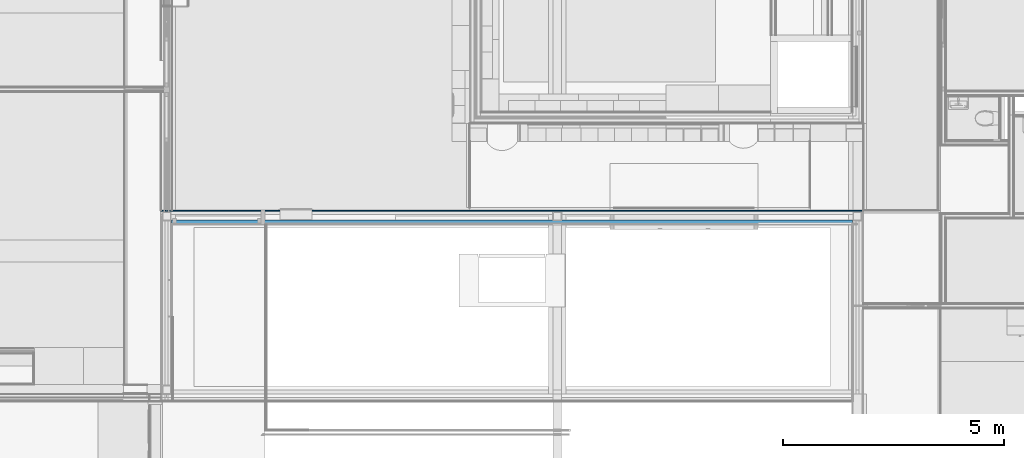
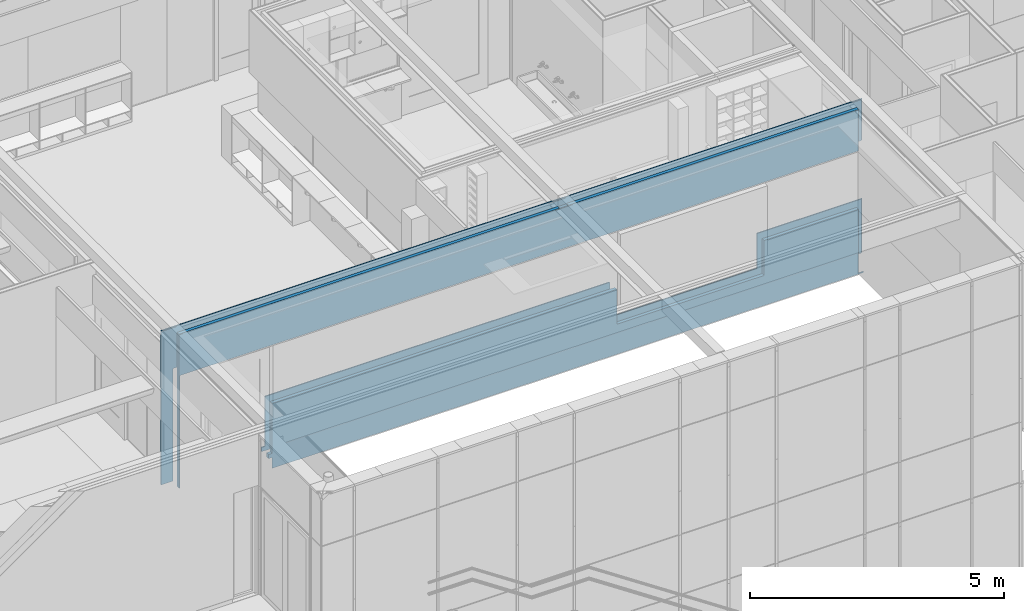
# One storey, part 69 of 137: 3 building element parts, 4 openings, 1 element without a shape of its own.
"""IFC2X3 building model written with IfcOpenShell, lengths in millimetres."""

from ifc_helpers import new_model, entity, si_unit, converted_unit, derived_unit, money_unit, direction, frame, origin_with_axes, place, context, subcontext, project, spatial, faceted_brep, material, type_object, element, aggregate, save


model = new_model("IFC2X3")

# Units and contexts
model_context = context("Model", 3, precision=0.01, world=origin_with_axes(), true_north=direction((0.0, 1.0)))
body_context = subcontext(model_context, "Body", "Model", "MODEL_VIEW")
ifc_project = project(units=[si_unit("LENGTHUNIT", "METRE", prefix="MILLI"), si_unit("AREAUNIT", "SQUARE_METRE"), si_unit("VOLUMEUNIT", "CUBIC_METRE"), converted_unit("PLANEANGLEUNIT", "DEGREE", entity("IfcPlaneAngleMeasure", 0.0174532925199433), si_unit("PLANEANGLEUNIT", "RADIAN"), dimensions=[0, 0, 0, 0, 0, 0, 0]), money_unit("EUR"), converted_unit("TIMEUNIT", "Year", entity("IfcTimeMeasure", 31556926.0), si_unit("TIMEUNIT", "SECOND"), dimensions=[0, 0, 1, 0, 0, 0, 0]), si_unit("MASSUNIT", "GRAM", prefix="KILO"), si_unit("THERMODYNAMICTEMPERATUREUNIT", "DEGREE_CELSIUS"), si_unit("LUMINOUSINTENSITYUNIT", "LUMEN"), si_unit("ENERGYUNIT", "JOULE", prefix="MEGA"), derived_unit("THERMALCONDUCTANCEUNIT", [(si_unit("POWERUNIT", "WATT"), 1), (si_unit("LENGTHUNIT", "METRE"), -1), (si_unit("THERMODYNAMICTEMPERATUREUNIT", "KELVIN"), -1)]), derived_unit("SPECIFICHEATCAPACITYUNIT", [(si_unit("ENERGYUNIT", "JOULE"), 1), (si_unit("MASSUNIT", "GRAM", prefix="KILO"), -1), (si_unit("THERMODYNAMICTEMPERATUREUNIT", "KELVIN"), -1)]), derived_unit("MASSDENSITYUNIT", [(si_unit("MASSUNIT", "GRAM", prefix="KILO"), 1), (si_unit("VOLUMEUNIT", "CUBIC_METRE"), -1)])], contexts=[model_context])

# Site, building, storey
site_placement = place(None, origin_with_axes())
site = spatial("IfcSite", under=ifc_project, at=site_placement, Name="Site", CompositionType="ELEMENT")
building_placement = place(site_placement, origin_with_axes())
building = spatial("IfcBuilding", under=site, at=building_placement, Name="Naam gebouw", CompositionType="ELEMENT")
storey_placement = place(building_placement, frame((0.0, 0.0, 3960.0), z_axis=(0.0, 0.0, 1.0), x_axis=(1.0, 0.0, 0.0)))
storey = spatial("IfcBuildingStorey", under=building, at=storey_placement, Name="1e verdieping", CompositionType="ELEMENT", Elevation=3960.0)

# Proxy, openings, building element parts
building_element_proxy_type = type_object("IfcBuildingElementProxyType", Name="22 Metal stud 325 325", PredefinedType="NOTDEFINED")
proxy_placement = place(storey_placement, frame((24499.99903999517, 10620.00011055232, -360.0000000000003), z_axis=(0.0, 0.0, 1.0), x_axis=(-1.0, 0.0, 0.0)))
proxy = element("IfcBuildingElementProxy", 1, at=proxy_placement, inside=storey, type_object=building_element_proxy_type, Name="_Wand-x")
opening_1_placement = place(proxy_placement, frame((9512.476531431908, 0.0, 1560.0), z_axis=(0.0, 0.0, 1.0), x_axis=(1.0, 0.0, 0.0)))
element("IfcOpeningElement", 2, at=opening_1_placement, cuts=proxy, Name="_A.02", context=body_context, shape_type="Brep", body=[
    faceted_brep([(-3912.476916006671, -326.0000000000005, 1400.0), (-3912.476916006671, -326.0000000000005, 0.0), (3912.476916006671, -326.0000000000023, 0.0), (3912.476916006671, -326.0000000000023, 1400.0), (-3912.476916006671, 1.000000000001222, 1400.0), (-3912.476916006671, 1.000000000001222, 0.0), (3912.476916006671, 0.9999999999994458, 0.0), (3912.476916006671, 0.9999999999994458, 1400.0)], [[[0, 1, 2, 3]], [[4, 5, 1, 0]], [[5, 6, 2, 1]], [[6, 7, 3, 2]], [[7, 4, 0, 3]], [[6, 5, 4, 7]]]),
])
opening_2_placement = place(proxy_placement, frame((1194.999807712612, 0.0, 1560.0), z_axis=(0.0, 0.0, 1.0), x_axis=(1.0, 0.0, 0.0)))
element("IfcOpeningElement", 3, at=opening_2_placement, cuts=proxy, Name="_A.01a", context=body_context, shape_type="Brep", body=[
    faceted_brep([(-1329.999807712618, -325.9999999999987, 1400.0), (-1329.999807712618, -325.9999999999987, 0.0), (1059.999807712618, -325.9999999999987, 0.0), (1059.999807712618, -325.9999999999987, 1400.0), (-1329.999807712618, -325.0000000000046, 0.0), (-1329.999807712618, -325.0000000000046, 1400.0), (-1059.169038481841, 0.9999999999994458, 0.0), (1059.999807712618, 0.9999999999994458, 0.0), (1059.999807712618, 0.9999999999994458, 1400.0), (-1059.169038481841, 0.9999999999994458, 1400.0)], [[[0, 1, 2, 3]], [[4, 1, 0, 5]], [[6, 7, 2, 1, 4]], [[7, 8, 3, 2]], [[8, 9, 5, 0, 3]], [[4, 5, 9, 6]], [[7, 6, 9, 8]]]),
])
opening_3_placement = place(proxy_placement, frame((3927.499615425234, 0.0, 720.0000000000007), z_axis=(0.0, 0.0, 1.0), x_axis=(1.0, 0.0, 0.0)))
element("IfcOpeningElement", 4, at=opening_3_placement, cuts=proxy, Name="_A.04", context=body_context, shape_type="Brep", body=[
    faceted_brep([(-1672.500000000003, -325.9999999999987, 2240.0), (-1672.500000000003, -325.9999999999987, 0.0), (1672.500000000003, -325.9999999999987, 0.0), (1672.500000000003, -325.9999999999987, 2240.0), (-1672.500000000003, 0.9999999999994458, 2240.0), (-1672.500000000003, 0.9999999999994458, 0.0), (1672.500000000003, 0.9999999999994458, 0.0), (1672.500000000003, 0.9999999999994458, 2240.0)], [[[0, 1, 2, 3]], [[4, 5, 1, 0]], [[5, 6, 2, 1]], [[6, 7, 3, 2]], [[7, 4, 0, 3]], [[6, 5, 4, 7]]]),
])
opening_4_placement = place(proxy_placement, frame((14509.95344743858, 0.0, 360.0000000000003), z_axis=(0.0, 0.0, 1.0), x_axis=(1.0, 0.0, 0.0)))
element("IfcOpeningElement", 5, at=opening_4_placement, cuts=proxy, Name="_03.05", context=body_context, shape_type="Brep", body=[
    faceted_brep([(-1005.000000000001, -326.0000000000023, 2600.0), (-1005.000000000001, -326.0000000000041, -100.0000000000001), (1005.000000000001, -326.0000000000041, -100.0000000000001), (1005.000000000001, -326.0000000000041, 2600.0), (-1005.000000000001, 1.000000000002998, 2600.0), (-1005.000000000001, 1.000000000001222, -100.0000000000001), (1005.000000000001, 1.000000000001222, -100.0000000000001), (1005.000000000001, 1.000000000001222, 2600.0)], [[[0, 1, 2, 3]], [[4, 5, 1, 0]], [[5, 6, 2, 1]], [[6, 7, 3, 2]], [[7, 4, 0, 3]], [[6, 5, 4, 7]]]),
])
ifc_material_1 = material(Name="ALG - LICHTE SCHEIDINGSWAND")
building_element_part_1_placement = place(proxy_placement, origin_with_axes())
building_element_part_1 = element("IfcBuildingElementPart", 6, at=building_element_part_1_placement, material=ifc_material_1, Name="ALG - LICHTE SCHEIDINGSWAND", context=body_context, shape_type="Brep", body=[
    faceted_brep([(13504.95344743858, -100.0000022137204, 360.0000000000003), (13424.95344743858, -100.0000021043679, 360.0000000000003), (13424.95344743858, -100.0000021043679, 1560.0), (6899.99961542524, -100.0000021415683, 1560.0), (6899.99961542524, -100.0000021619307, 260.0000000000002), (13504.95344743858, -100.0000022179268, 260.0000000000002), (13504.95344743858, -25.00000000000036, 360.0000000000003), (13424.95344743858, -25.00000000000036, 360.0000000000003), (13424.95344743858, -25.00000000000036, 1560.0), (5599.999615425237, -25.00000000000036, 1560.0), (5599.999615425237, -100.0000021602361, 1560.0), (6699.999615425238, -100.0000021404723, 1560.0), (6699.999615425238, -90.00000000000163, 1560.0), (6899.99961542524, -90.00000000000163, 1560.0), (6899.99961542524, -90.00000000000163, 260.0000000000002), (13424.95344743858, -35.99999999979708, 259.9999999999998), (13424.95344743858, -25.00000000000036, 259.9999999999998), (13504.95344743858, -25.00000000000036, 260.0000000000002), (6699.999615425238, -90.00000000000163, 260.0000000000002), (6699.999615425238, -100.0000021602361, 260.0000000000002), (109.9999999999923, -100.0000021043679, 260.0000022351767), (109.9999999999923, -35.99999999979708, 259.9999999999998), (13424.95344743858, -25.00000000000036, 0.0), (100.9999999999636, -25.00000000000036, 0.0), (100.9999999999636, -25.00000000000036, 30.00000000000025), (109.9999999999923, -25.00000000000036, 30.00000000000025), (109.9999999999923, -25.00000000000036, 1560.0), (114.2307692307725, -25.00000000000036, 1560.0), (2254.99961542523, -25.00000000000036, 1560.0), (2254.99961542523, -25.00000000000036, 720.0000000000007), (5599.999615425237, -25.00000000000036, 720.0000000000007), (5599.999615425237, -100.0000021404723, 720.0000000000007), (2254.99961542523, -100.0000021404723, 720.0000000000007), (2254.99961542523, -100.0000021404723, 1560.0), (109.9999999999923, -100.0000013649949, 1560.0), (13424.95344743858, -35.99999999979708, 0.0), (109.9999999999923, -30.09259259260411, 1560.0), (109.9999999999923, -35.99999999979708, 30.00000000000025), (100.9999999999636, -35.99999999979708, 30.00000000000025), (100.9999999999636, -35.99999999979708, 0.0)], [[[0, 1, 2, 3, 4, 5]], [[1, 0, 6, 7]], [[8, 2, 1, 7]], [[2, 8, 9, 10, 11, 12, 13, 3]], [[3, 13, 14, 4]], [[15, 16, 17, 5, 4, 14, 18, 19, 20, 21]], [[6, 0, 5, 17]], [[7, 6, 17, 16, 22, 23, 24, 25, 26, 27, 28, 29, 30, 9, 8]], [[30, 31, 10, 9]], [[32, 33, 34, 20, 19, 11, 10, 31]], [[12, 11, 19, 18]], [[13, 12, 18, 14]], [[16, 15, 35, 22]], [[20, 34, 36, 26, 25, 37, 21]], [[38, 39, 35, 15, 21, 37]], [[39, 23, 22, 35]], [[39, 38, 24, 23]], [[24, 38, 37, 25]], [[26, 36, 27]], [[27, 36, 34, 33, 28]], [[29, 28, 33, 32]], [[29, 32, 31, 30]]]),
    faceted_brep([(13424.95344743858, -25.00000000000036, 2960.000000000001), (13424.95344743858, -100.0000021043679, 2960.000000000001), (6899.99961542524, -100.0000021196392, 2960.000000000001), (6899.99961542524, -90.00000000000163, 2960.000000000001), (6699.999615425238, -90.00000000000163, 2960.000000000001), (6699.999615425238, -100.0000021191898, 2960.000000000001), (2254.99961542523, -100.0000021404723, 2960.000000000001), (2254.99961542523, -25.00000000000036, 2960.000000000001), (13504.95344743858, -100.0000021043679, 2960.000000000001), (13504.95344743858, -25.00000000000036, 2960.000000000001), (15514.95344743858, -100.0000021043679, 2960.000000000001), (15514.95344743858, -100.0000022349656, 260.0000000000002), (15539.99664850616, -100.0000022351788, 260.0000022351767), (15539.99664850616, -100.0000000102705, 3943.000002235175), (15449.99903405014, -100.0000021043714, 3943.000002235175), (15449.99903405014, -100.0000021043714, 3955.000002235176), (15539.99664850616, -100.000000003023, 3955.000002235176), (15539.99664850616, -100.0000000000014, 3960.000000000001), (6900.999615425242, -99.99999999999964, 3960.000000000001), (6900.999615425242, -100.0000021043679, 3955.000029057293), (6999.999615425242, -100.0000021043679, 3955.000029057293), (6999.999615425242, -100.0000021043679, 3935.000029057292), (6899.99961542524, -100.0000021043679, 3935.000029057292), (6899.99961542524, -90.00000000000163, 3935.000029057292), (6999.999615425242, -90.00000000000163, 3935.000029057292), (6999.999615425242, -90.00000000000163, 3940.000029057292), (6599.999615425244, -90.00000000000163, 3940.000029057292), (6599.999615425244, -90.00000000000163, 3935.000029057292), (6699.999615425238, -90.00000000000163, 3935.000029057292), (6699.999615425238, -100.0000021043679, 3935.000029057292), (109.9999999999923, -100.0000000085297, 3945.000029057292), (109.9999999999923, -100.0000005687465, 2960.000000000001), (6599.999615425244, -100.0000021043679, 3935.000029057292), (6599.999615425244, -100.0000021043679, 3955.000029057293), (6698.999615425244, -100.0000021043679, 3955.000029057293), (6698.999615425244, -99.99999999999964, 3960.000000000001), (109.9999999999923, -99.99999999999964, 3960.000000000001), (109.9999999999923, -100.0000000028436, 3955.000029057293), (199.9999999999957, -100.0000021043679, 3955.000029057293), (199.9999999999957, -100.0000021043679, 3945.000029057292), (109.9999999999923, -30.09259259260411, 2960.000000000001), (114.2307692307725, -25.00000000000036, 2960.000000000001), (109.9999999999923, -25.00000000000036, 2960.000000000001), (109.9999999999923, -25.00000000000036, 3945.000029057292), (199.9999999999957, -25.00000000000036, 3945.000029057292), (199.9999999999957, -25.00000000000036, 3955.000029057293), (109.9999999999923, -25.00000000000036, 3955.000029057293), (109.9999999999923, -25.00000000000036, 3960.000000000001), (6698.999615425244, -25.00000000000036, 3960.000000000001), (6698.999615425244, -25.00000000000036, 3955.000029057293), (6599.999615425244, -25.00000000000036, 3955.000029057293), (6599.999615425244, -25.00000000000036, 3940.000029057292), (6999.999615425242, -25.00000000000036, 3940.000029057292), (6999.999615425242, -25.00000000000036, 3955.000029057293), (6900.999615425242, -25.00000000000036, 3955.000029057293), (6900.999615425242, -25.00000000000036, 3960.000000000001), (15539.99664850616, -25.00000000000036, 3960.000000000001), (15539.99664850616, -25.00000000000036, 3955.000002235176), (15449.99907863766, -25.00000000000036, 3955.000002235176), (15449.99907863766, -25.00000000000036, 3943.000002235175), (15539.99664850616, -25.00000000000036, 3943.000002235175), (15539.99664850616, -25.00000000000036, 259.9999999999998), (15514.95344743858, -25.00000000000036, 260.0000000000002), (15514.95344743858, -25.00000000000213, 2960.000000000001)], [[[0, 1, 2, 3, 4, 5, 6, 7]], [[8, 1, 0, 9]], [[1, 8, 10, 11, 12, 13, 14, 15, 16, 17, 18, 19, 20, 21, 22, 2]], [[3, 2, 22, 23]], [[4, 3, 23, 24, 25, 26, 27, 28]], [[5, 4, 28, 29]], [[30, 31, 6, 5, 29, 32, 33, 34, 35, 36, 37, 38, 39]], [[7, 6, 31, 40, 41]], [[9, 0, 7, 41, 42, 43, 44, 45, 46, 47, 48, 49, 50, 51, 52, 53, 54, 55, 56, 57, 58, 59, 60, 61, 62, 63]], [[8, 9, 63, 10]], [[63, 62, 11, 10]], [[61, 12, 11, 62]], [[60, 13, 12, 61]], [[14, 13, 60, 59]], [[15, 14, 59, 58]], [[16, 15, 58, 57]], [[16, 57, 56, 17]], [[55, 18, 17, 56]], [[55, 54, 19, 18]], [[54, 53, 20, 19]], [[53, 52, 25, 24, 21, 20]], [[22, 21, 24, 23]], [[26, 25, 52, 51]], [[26, 51, 50, 33, 32, 27]], [[28, 27, 32, 29]], [[42, 40, 31, 30, 43]], [[33, 50, 49, 34]], [[49, 48, 35, 34]], [[48, 47, 36, 35]], [[46, 37, 36, 47]], [[38, 37, 46, 45]], [[39, 38, 45, 44]], [[43, 30, 39, 44]], [[42, 41, 40]]]),
    faceted_brep([(6704.999615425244, -90.00000000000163, 3955.000029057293), (6704.999615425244, -90.00000000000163, 3959.999999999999), (6704.999615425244, -25.00000000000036, 3960.000000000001), (6704.999615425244, -25.00000000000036, 3955.000029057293), (6894.999615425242, -90.00000000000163, 3959.999999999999), (6894.999615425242, -90.00000000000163, 3955.000029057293), (6894.999615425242, -25.00000000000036, 3960.000000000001), (6894.999615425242, -25.00000000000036, 3955.000029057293)], [[[0, 1, 2, 3]], [[4, 1, 0, 5]], [[1, 4, 6, 2]], [[7, 3, 2, 6]], [[5, 0, 3, 7]], [[4, 5, 7, 6]]]),
    faceted_brep([(94.99999999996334, -35.99999999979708, 0.0), (94.99999999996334, -35.99999999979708, 30.00000000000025), (0.0, -35.99999999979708, 30.00000000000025), (0.0, -35.99999999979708, 0.0), (94.99999999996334, -25.00000000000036, 30.00000000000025), (94.99999999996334, -25.00000000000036, 0.0), (0.0, -25.00000000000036, 30.00000000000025), (0.0, -25.00000000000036, 0.0)], [[[0, 1, 2, 3]], [[4, 1, 0, 5]], [[1, 4, 6, 2]], [[7, 3, 2, 6]], [[5, 0, 3, 7]], [[4, 5, 7, 6]]]),
])
ifc_material_2 = material(Name="Gipsplaat")
building_element_part_2_placement = place(proxy_placement, origin_with_axes())
building_element_part_2 = element("IfcBuildingElementPart", 7, at=building_element_part_2_placement, material=ifc_material_2, Name="Gipsplaat", context=body_context, shape_type="Brep", body=[
    faceted_brep([(13504.95344743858, -312.5000000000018, 360.0000000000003), (13424.95344743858, -312.5000000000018, 360.0000000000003), (13424.95344743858, -312.5000000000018, 1560.0), (5599.999615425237, -312.5, 1560.0), (5599.999615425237, -312.5, 720.0000000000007), (2254.99961542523, -312.5, 720.0000000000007), (2254.99961542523, -312.5, 1560.0), (-110.0000000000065, -312.5, 1560.0), (-110.0000000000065, -312.5, 260.0000022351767), (13504.95344743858, -312.5000000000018, 260.0000000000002), (13504.95344743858, -300.0000000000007, 360.0000000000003), (13424.95344743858, -299.9999999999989, 360.0000000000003), (13424.95344743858, -300.0000000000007, 1560.0), (5599.999615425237, -299.9999999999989, 1560.0), (5599.999615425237, -299.9999999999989, 720.0000000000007), (2254.99961542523, -299.9999999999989, 720.0000000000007), (2254.99961542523, -299.9999999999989, 1560.0), (-110.0000000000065, -299.9999999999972, 1560.0), (-110.0000000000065, -299.9999999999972, 260.0000022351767), (13504.95344743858, -300.0000000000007, 260.0000000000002)], [[[0, 1, 2, 3, 4, 5, 6, 7, 8, 9]], [[1, 0, 10, 11]], [[12, 2, 1, 11]], [[2, 12, 13, 3]], [[14, 4, 3, 13]], [[15, 5, 4, 14]], [[15, 16, 6, 5]], [[16, 17, 7, 6]], [[8, 7, 17, 18]], [[8, 18, 19, 9]], [[10, 0, 9, 19]], [[11, 10, 19, 18, 17, 16, 15, 14, 13, 12]]]),
    faceted_brep([(13424.95344743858, -299.9999999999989, 2960.000000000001), (13424.95344743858, -312.5, 2960.000000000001), (2254.99961542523, -312.5, 2960.000000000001), (2254.99961542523, -299.9999999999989, 2960.000000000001), (13504.95344743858, -312.5000000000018, 2960.000000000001), (13504.95344743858, -300.0000000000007, 2960.000000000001), (15514.95344743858, -312.5000000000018, 2960.000000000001), (15514.95344743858, -312.5000000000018, 260.0000000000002), (15784.99664850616, -312.5000000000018, 259.9999999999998), (15784.99664850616, -312.5, 3943.000002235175), (15449.99890771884, -312.5000000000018, 3943.000002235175), (15449.99890771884, -312.5000000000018, 3955.000002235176), (15548.99890771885, -312.5000000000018, 3955.000002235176), (15548.99890771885, -312.5, 3960.000000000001), (6900.999615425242, -312.5, 3960.000000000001), (6900.999615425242, -312.5000000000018, 3955.000029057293), (6999.999615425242, -312.5000000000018, 3955.000029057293), (6999.999615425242, -312.5000000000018, 3935.000029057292), (6599.999615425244, -312.5000000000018, 3935.000029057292), (6599.999615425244, -312.5000000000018, 3955.000029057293), (6698.999615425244, -312.5000000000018, 3955.000029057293), (6698.999615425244, -312.5, 3960.000000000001), (100.9999999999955, -312.5, 3960.000000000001), (100.9999999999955, -312.5, 3955.000029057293), (199.9999999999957, -312.5, 3955.000029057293), (199.9999999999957, -312.5, 3945.000029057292), (-110.0000000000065, -312.5, 3945.000029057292), (-110.0000000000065, -312.5, 2960.000000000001), (-110.0000000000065, -299.9999999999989, 2960.000000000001), (-110.0000000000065, -299.9999999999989, 3945.000029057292), (199.9999999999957, -299.9999999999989, 3945.000029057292), (199.9999999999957, -299.9999999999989, 3955.000029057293), (100.9999999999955, -299.9999999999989, 3955.000029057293), (100.9999999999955, -299.9999999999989, 3960.000000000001), (6698.999615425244, -299.9999999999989, 3960.000000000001), (6698.999615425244, -299.9999999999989, 3955.000029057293), (6599.999615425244, -299.9999999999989, 3955.000029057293), (6599.999615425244, -299.9999999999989, 3935.000029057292), (6999.999615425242, -299.9999999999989, 3935.000029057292), (6999.999615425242, -299.9999999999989, 3955.000029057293), (6900.999615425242, -299.9999999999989, 3955.000029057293), (6900.999615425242, -299.9999999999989, 3960.000000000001), (15548.99891515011, -300.0000000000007, 3960.000000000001), (15548.99891515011, -299.9999999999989, 3955.000002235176), (15449.99891515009, -300.0000000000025, 3955.000002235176), (15449.99891515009, -300.0000000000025, 3943.000002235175), (15784.99664850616, -300.0000000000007, 3943.000002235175), (15784.99664850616, -300.0000000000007, 259.9999999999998), (15514.95344743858, -300.0000000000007, 260.0000000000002), (15514.95344743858, -300.0000000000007, 2960.000000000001)], [[[0, 1, 2, 3]], [[4, 1, 0, 5]], [[1, 4, 6, 7, 8, 9, 10, 11, 12, 13, 14, 15, 16, 17, 18, 19, 20, 21, 22, 23, 24, 25, 26, 27, 2]], [[3, 2, 27, 28]], [[5, 0, 3, 28, 29, 30, 31, 32, 33, 34, 35, 36, 37, 38, 39, 40, 41, 42, 43, 44, 45, 46, 47, 48, 49]], [[4, 5, 49, 6]], [[49, 48, 7, 6]], [[47, 8, 7, 48]], [[9, 8, 47, 46]], [[9, 46, 45, 10]], [[10, 45, 44, 11]], [[11, 44, 43, 12]], [[13, 12, 43, 42]], [[42, 41, 14, 13]], [[14, 41, 40, 15]], [[15, 40, 39, 16]], [[16, 39, 38, 17]], [[17, 38, 37, 18]], [[18, 37, 36, 19]], [[19, 36, 35, 20]], [[21, 20, 35, 34]], [[22, 21, 34, 33]], [[22, 33, 32, 23]], [[23, 32, 31, 24]], [[24, 31, 30, 25]], [[26, 25, 30, 29]], [[29, 28, 27, 26]]]),
    faceted_brep([(6894.999615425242, -312.5, 3960.000000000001), (6894.999615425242, -299.9999999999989, 3960.000000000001), (6704.999615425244, -299.9999999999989, 3960.000000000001), (6704.999615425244, -312.5, 3960.000000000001), (6894.999615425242, -312.5000000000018, 3955.000029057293), (6894.999615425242, -299.9999999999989, 3955.000029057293), (6704.999615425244, -299.9999999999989, 3955.000029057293), (6704.999615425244, -312.5000000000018, 3955.000029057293)], [[[0, 1, 2, 3]], [[1, 0, 4, 5]], [[6, 2, 1, 5]], [[7, 3, 2, 6]], [[4, 0, 3, 7]], [[4, 7, 6, 5]]]),
    faceted_brep([(15750.99891515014, -300.0000000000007, 3960.000000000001), (15750.99890771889, -312.5, 3960.000000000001), (15784.99664850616, -312.5, 3960.000000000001), (15784.99664850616, -300.0000000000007, 3960.000000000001), (15750.99890771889, -312.5000000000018, 3955.000002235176), (15750.99891515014, -299.9999999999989, 3955.000002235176), (15784.99664850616, -312.5, 3955.000002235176), (15784.99664850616, -300.0000000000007, 3955.000002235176)], [[[0, 1, 2, 3]], [[4, 1, 0, 5]], [[4, 6, 2, 1]], [[6, 7, 3, 2]], [[5, 0, 3, 7]], [[6, 4, 5, 7]]]),
    faceted_brep([(15744.99890771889, -312.5, 3960.000000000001), (15744.99891515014, -300.0000000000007, 3960.000000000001), (15554.99891515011, -300.0000000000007, 3960.000000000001), (15554.99890771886, -312.5, 3960.000000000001), (15744.99890771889, -312.5000000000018, 3955.000002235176), (15744.99891515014, -299.9999999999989, 3955.000002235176), (15554.99891515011, -299.9999999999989, 3955.000002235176), (15554.99890771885, -312.5000000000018, 3955.000002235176)], [[[0, 1, 2, 3]], [[1, 0, 4, 5]], [[6, 2, 1, 5]], [[7, 3, 2, 6]], [[4, 0, 3, 7]], [[4, 7, 6, 5]]]),
    faceted_brep([(94.99999999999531, -312.5, 3960.000000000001), (94.99999999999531, -299.9999999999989, 3960.000000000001), (-95.00000000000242, -299.9999999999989, 3960.000000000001), (-95.00000000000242, -312.5, 3960.000000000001), (94.99999999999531, -312.5, 3955.000029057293), (94.99999999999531, -299.9999999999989, 3955.000029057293), (-95.00000000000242, -299.9999999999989, 3955.000029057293), (-95.00000000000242, -312.5, 3955.000029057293)], [[[0, 1, 2, 3]], [[1, 0, 4, 5]], [[6, 2, 1, 5]], [[7, 3, 2, 6]], [[4, 0, 3, 7]], [[4, 7, 6, 5]]]),
    faceted_brep([(-110.0000000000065, -299.9999999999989, 3955.000029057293), (-110.0000000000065, -312.5, 3955.000029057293), (-110.0000000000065, -312.5, 3960.000000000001), (-110.0000000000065, -299.9999999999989, 3960.000000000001), (-101.0000000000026, -312.5, 3955.000029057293), (-101.0000000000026, -299.9999999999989, 3955.000029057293), (-100.9999966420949, -312.5, 3960.000000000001), (-100.9999966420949, -299.9999999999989, 3960.000000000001)], [[[0, 1, 2, 3]], [[4, 1, 0, 5]], [[4, 6, 2, 1]], [[6, 7, 3, 2]], [[5, 0, 3, 7]], [[7, 6, 4, 5]]]),
])
building_element_part_3_placement = place(proxy_placement, origin_with_axes())
building_element_part_3 = element("IfcBuildingElementPart", 8, at=building_element_part_3_placement, material=ifc_material_2, Name="Gipsplaat", context=body_context, shape_type="Brep", body=[
    faceted_brep([(13504.95344743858, -324.9999999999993, 360.0000000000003), (13424.95344743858, -324.9999999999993, 360.0000000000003), (13424.95344743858, -324.9999999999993, 1560.0), (5599.999615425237, -324.9999999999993, 1560.0), (5599.999615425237, -325.0000000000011, 720.0000000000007), (2254.99961542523, -325.0000000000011, 720.0000000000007), (2254.99961542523, -324.9999999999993, 1560.0), (-135.0000000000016, -324.9999999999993, 1560.0), (-135.0000000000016, -324.9999999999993, 260.0000022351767), (0.0, -324.9999999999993, 260.0000022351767), (13504.95344743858, -325.0000000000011, 260.0000000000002), (13504.95344743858, -312.5, 360.0000000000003), (13424.95344743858, -312.5, 360.0000000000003), (13424.95344743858, -312.4999999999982, 1560.0), (5599.999615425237, -312.4999999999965, 1560.0), (5599.999615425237, -312.5, 720.0000000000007), (2254.99961542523, -312.5, 720.0000000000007), (2254.99961542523, -312.5, 1560.0), (-124.6153846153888, -312.5000000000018, 1560.0), (-135.0000000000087, -312.5, 1560.0), (-135.0000000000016, -312.5, 260.0000022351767), (13504.95344743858, -312.5, 260.0000000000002)], [[[0, 1, 2, 3, 4, 5, 6, 7, 8, 9, 10]], [[1, 0, 11, 12]], [[13, 2, 1, 12]], [[2, 13, 14, 3]], [[15, 4, 3, 14]], [[16, 5, 4, 15]], [[16, 17, 6, 5]], [[17, 18, 7, 6]], [[8, 7, 19, 20]], [[8, 20, 21, 10, 9]], [[11, 0, 10, 21]], [[12, 11, 21, 20, 19, 18, 17, 16, 15, 14, 13]], [[19, 7, 18]]]),
    faceted_brep([(13424.95344743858, -312.4999999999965, 2960.000000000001), (13424.95344743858, -324.9999999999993, 2960.000000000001), (2254.99961542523, -324.9999999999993, 2960.000000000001), (2254.99961542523, -312.5, 2960.000000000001), (13504.95344743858, -324.9999999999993, 2960.000000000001), (13504.95344743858, -312.5, 2960.000000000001), (15514.95344743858, -325.0000000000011, 2960.000000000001), (15514.95344743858, -325.0000000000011, 260.0000000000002), (15649.99903999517, -325.0000000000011, 259.9999999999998), (15784.99664850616, -325.0000000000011, 259.9999999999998), (15784.99664850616, -325.0000000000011, 3943.000002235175), (15449.99890028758, -325.0000000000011, 3943.000002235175), (15449.99890028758, -325.0000000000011, 3955.000002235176), (15548.9989002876, -325.0000000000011, 3955.000002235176), (15548.9989002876, -325.0000000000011, 3960.000000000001), (6900.999615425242, -325.0000000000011, 3960.000000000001), (6900.999615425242, -325.0000000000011, 3955.000029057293), (6999.999615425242, -325.0000000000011, 3955.000029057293), (6999.999615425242, -325.0000000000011, 3935.000029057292), (6599.999615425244, -325.0000000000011, 3935.000029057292), (6599.999615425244, -325.0000000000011, 3955.000029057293), (6698.999615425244, -325.0000000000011, 3955.000029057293), (6698.999615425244, -325.0000000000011, 3960.000000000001), (100.9999999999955, -324.9999999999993, 3960.000000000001), (100.9999999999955, -324.9999999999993, 3955.000029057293), (199.9999999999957, -324.9999999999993, 3955.000029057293), (199.9999999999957, -324.9999999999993, 3945.000029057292), (-135.0000000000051, -324.9999999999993, 3945.000029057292), (-135.0000000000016, -324.9999999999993, 2960.000000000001), (-124.6153846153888, -312.5000000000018, 2960.000000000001), (-135.0000000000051, -312.5, 2960.000000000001), (-135.0000000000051, -312.5, 3945.000029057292), (199.9999999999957, -312.4999999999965, 3945.000029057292), (199.9999999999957, -312.4999999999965, 3955.000029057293), (100.9999999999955, -312.4999999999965, 3955.000029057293), (100.9999999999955, -312.5, 3960.000000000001), (6698.999615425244, -312.5, 3960.000000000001), (6698.999615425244, -312.4999999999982, 3955.000029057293), (6599.999615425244, -312.4999999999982, 3955.000029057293), (6599.999615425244, -312.4999999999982, 3935.000029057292), (6999.999615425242, -312.4999999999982, 3935.000029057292), (6999.999615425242, -312.4999999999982, 3955.000029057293), (6900.999615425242, -312.4999999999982, 3955.000029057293), (6900.999615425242, -312.5, 3960.000000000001), (15548.99890771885, -312.5, 3960.000000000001), (15548.99890771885, -312.4999999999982, 3955.000002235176), (15449.99890771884, -312.4999999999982, 3955.000002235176), (15449.99890771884, -312.4999999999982, 3943.000002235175), (15784.99664850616, -312.5, 3943.000002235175), (15784.99664850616, -312.5, 259.9999999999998), (15514.95344743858, -312.5, 260.0000000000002), (15514.95344743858, -312.5, 2960.000000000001)], [[[0, 1, 2, 3]], [[4, 1, 0, 5]], [[1, 4, 6, 7, 8, 9, 10, 11, 12, 13, 14, 15, 16, 17, 18, 19, 20, 21, 22, 23, 24, 25, 26, 27, 28, 2]], [[3, 2, 28, 29]], [[5, 0, 3, 29, 30, 31, 32, 33, 34, 35, 36, 37, 38, 39, 40, 41, 42, 43, 44, 45, 46, 47, 48, 49, 50, 51]], [[4, 5, 51, 6]], [[51, 50, 7, 6]], [[9, 8, 7, 50, 49]], [[10, 9, 49, 48]], [[10, 48, 47, 11]], [[11, 47, 46, 12]], [[12, 46, 45, 13]], [[14, 13, 45, 44]], [[44, 43, 15, 14]], [[15, 43, 42, 16]], [[16, 42, 41, 17]], [[17, 41, 40, 18]], [[18, 40, 39, 19]], [[19, 39, 38, 20]], [[20, 38, 37, 21]], [[22, 21, 37, 36]], [[23, 22, 36, 35]], [[23, 35, 34, 24]], [[24, 34, 33, 25]], [[25, 33, 32, 26]], [[27, 26, 32, 31]], [[31, 30, 28, 27]], [[30, 29, 28]]]),
    faceted_brep([(6894.999615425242, -325.0000000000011, 3960.000000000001), (6894.999615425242, -312.5, 3960.000000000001), (6704.999615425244, -312.5, 3960.000000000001), (6704.999615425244, -325.0000000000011, 3960.000000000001), (6894.999615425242, -325.0000000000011, 3955.000029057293), (6894.999615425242, -312.4999999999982, 3955.000029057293), (6704.999615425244, -312.4999999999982, 3955.000029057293), (6704.999615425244, -325.0000000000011, 3955.000029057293)], [[[0, 1, 2, 3]], [[1, 0, 4, 5]], [[6, 2, 1, 5]], [[7, 3, 2, 6]], [[4, 0, 3, 7]], [[4, 7, 6, 5]]]),
    faceted_brep([(15750.99890771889, -312.5, 3960.000000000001), (15750.99890028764, -325.0000000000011, 3960.000000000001), (15784.99664850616, -325.0000000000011, 3960.000000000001), (15784.99664850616, -312.5, 3960.000000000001), (15750.99890028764, -325.0000000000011, 3955.000002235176), (15750.99890771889, -312.4999999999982, 3955.000002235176), (15784.99664850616, -325.0000000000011, 3955.000002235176), (15784.99664850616, -312.5, 3955.000002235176)], [[[0, 1, 2, 3]], [[4, 1, 0, 5]], [[4, 6, 2, 1]], [[6, 7, 3, 2]], [[5, 0, 3, 7]], [[6, 4, 5, 7]]]),
    faceted_brep([(15744.99890028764, -325.0000000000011, 3960.000000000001), (15744.99890771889, -312.5, 3960.000000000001), (15554.99890771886, -312.5, 3960.000000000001), (15554.9989002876, -325.0000000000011, 3960.000000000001), (15744.99890028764, -325.0000000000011, 3955.000002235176), (15744.99890771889, -312.4999999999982, 3955.000002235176), (15554.99890771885, -312.4999999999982, 3955.000002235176), (15554.9989002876, -325.0000000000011, 3955.000002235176)], [[[0, 1, 2, 3]], [[1, 0, 4, 5]], [[6, 2, 1, 5]], [[7, 3, 2, 6]], [[4, 0, 3, 7]], [[4, 7, 6, 5]]]),
    faceted_brep([(94.99999999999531, -324.9999999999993, 3960.000000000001), (94.99999999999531, -312.5, 3960.000000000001), (-95.00000000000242, -312.5, 3960.000000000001), (-95.00000000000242, -324.9999999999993, 3960.000000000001), (94.99999999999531, -324.9999999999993, 3955.000029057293), (94.99999999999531, -312.4999999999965, 3955.000029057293), (-95.00000000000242, -312.4999999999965, 3955.000029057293), (-95.00000000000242, -324.9999999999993, 3955.000029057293)], [[[0, 1, 2, 3]], [[1, 0, 4, 5]], [[6, 2, 1, 5]], [[7, 3, 2, 6]], [[4, 0, 3, 7]], [[4, 7, 6, 5]]]),
    faceted_brep([(-135.0000000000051, -312.5, 3955.000029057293), (-135.0000000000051, -324.9999999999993, 3955.000029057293), (-135.0000000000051, -324.9999999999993, 3960.000000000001), (-135.0000000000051, -312.5, 3960.000000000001), (-101.0000000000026, -324.9999999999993, 3955.000029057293), (-101.0000000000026, -312.4999999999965, 3955.000029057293), (-100.9999966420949, -324.9999999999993, 3960.000000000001), (-100.9999966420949, -312.5, 3960.000000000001)], [[[0, 1, 2, 3]], [[4, 1, 0, 5]], [[4, 6, 2, 1]], [[6, 7, 3, 2]], [[5, 0, 3, 7]], [[7, 6, 4, 5]]]),
])
aggregate(proxy, [building_element_part_1, building_element_part_2, building_element_part_3])

save(model, "model.ifc")
